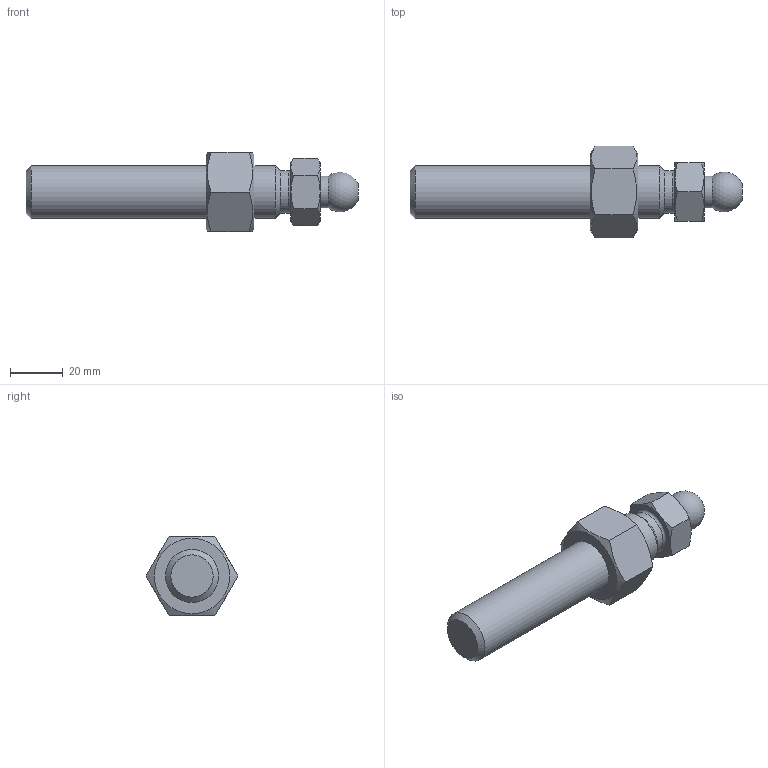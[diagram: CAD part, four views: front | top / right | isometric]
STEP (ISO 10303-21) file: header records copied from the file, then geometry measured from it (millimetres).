
FILE_DESCRIPTION(('STEP AP203'), '1');
FILE_NAME('A00020.120100 ', '', ('UNSPECIFIED'), ('UNSPECIFIED'), 'C3D Converter', 'C3D Toolkit', '');
FILE_SCHEMA(('CONFIG_CONTROL_DESIGN'));
Length unit declared in the file: millimetre
Products named in the file (2): A00020.120100
Assembly tree (1 placements, depth 2):
  A00020.120100
    (unnamed)
Bounding box: 125.3 x 34.64 x 30 mm (x, y, z)
Volume: 46784.5 mm3; surface area: 12196.1 mm2
Topology: 2 solids, 2 shells, 42 faces, 92 edges, 56 vertices
Faces by surface type: plane 18, cone 18, cylinder 4, sphere 1, torus 1
Full cylindrical faces by diameter (mm): 12 x1, 16 x1, 17.294 x1, 20 x1
Entity records: 2335 total; most frequent: CARTESIAN_POINT 1205, DIRECTION 160, ORIENTED_EDGE 156, EDGE_CURVE 78, AXIS2_PLACEMENT_3D 74, EDGE_LOOP 57, VERTEX_POINT 55, ADVANCED_FACE 41
